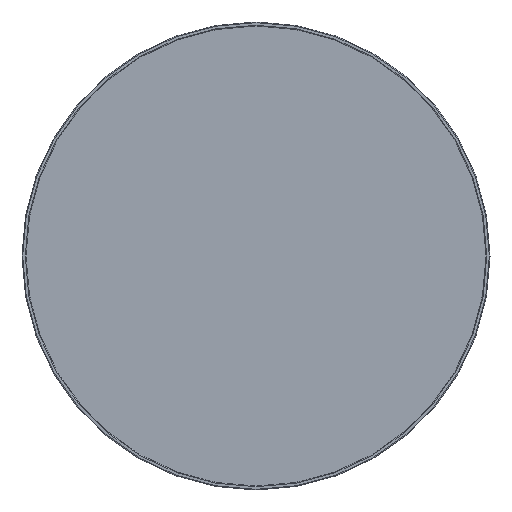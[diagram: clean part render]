
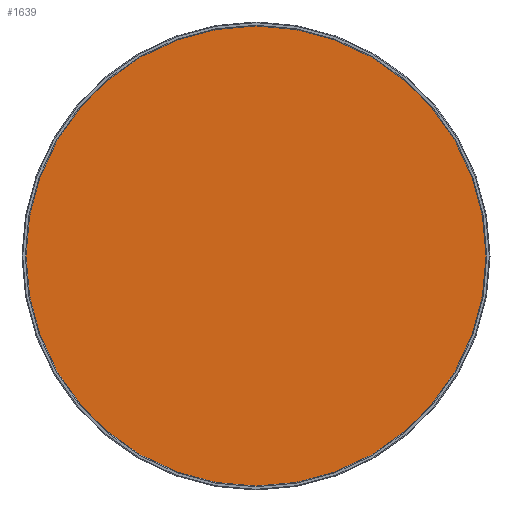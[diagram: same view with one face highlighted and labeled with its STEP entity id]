
A CAD part, front view. The second image highlights one B-rep face of the part: STEP entity #1639.
In plain terms, the highlighted planar face has unit normal (0, -1, 0).
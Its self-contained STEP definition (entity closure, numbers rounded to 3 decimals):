
#405=ORIENTED_EDGE('',*,*,#855,.F.);
#855=EDGE_CURVE('',#1085,#1085,#1243,.T.);
#1085=VERTEX_POINT('',#2463);
#1243=CIRCLE('',#1785,350.);
#1331=EDGE_LOOP('',(#405));
#1465=FACE_BOUND('',#1331,.T.);
#1584=PLANE('',#1787);
#1639=ADVANCED_FACE('',(#1465),#1584,.F.);
#1785=AXIS2_PLACEMENT_3D('',#2462,#1977,#1978);
#1787=AXIS2_PLACEMENT_3D('',#2465,#1981,#1982);
#1977=DIRECTION('',(0.,1.,0.));
#1978=DIRECTION('',(1.,0.,0.));
#1981=DIRECTION('',(0.,1.,0.));
#1982=DIRECTION('',(0.,0.,1.));
#2462=CARTESIAN_POINT('',(199.427,0.,72.079));
#2463=CARTESIAN_POINT('',(549.427,0.,72.079));
#2465=CARTESIAN_POINT('',(199.427,0.,72.079));
